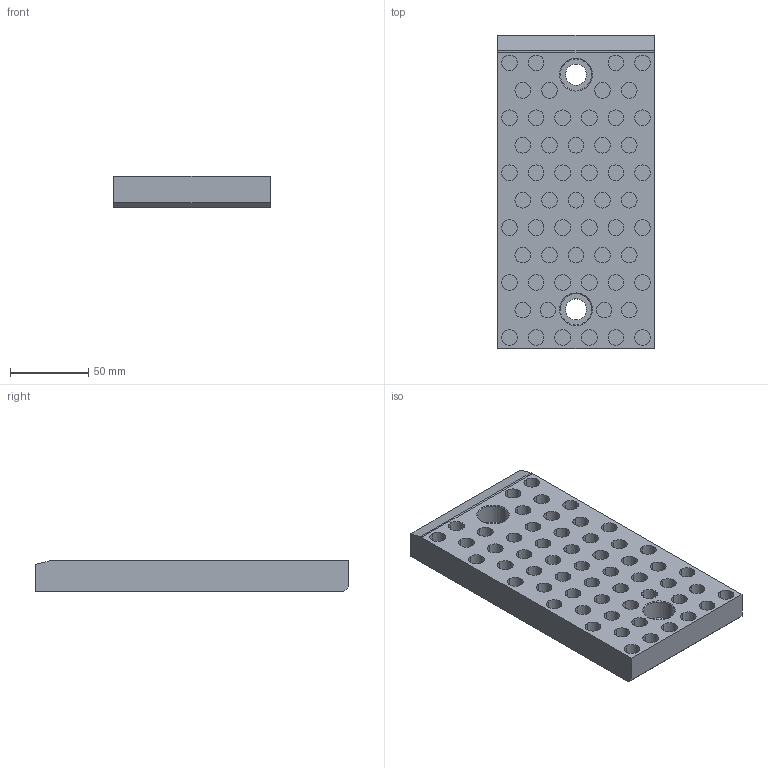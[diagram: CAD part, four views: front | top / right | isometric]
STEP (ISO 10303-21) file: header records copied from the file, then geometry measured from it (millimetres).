
FILE_DESCRIPTION (( 'STEP AP214' ), '1' );
FILE_NAME ('SW224-01-100x200.STEP', '2020-10-14T13:47:41', ( 'August' ), ( '' ), 'SwSTEP 2.0', 'SolidWorks 2018', '' );
FILE_SCHEMA (( 'AUTOMOTIVE_DESIGN' ));
Length unit declared in the file: millimetre
Products named in the file (1): SW224-01-100x200
Bounding box: 100 x 200 x 20 mm (x, y, z)
Volume: 346386.4 mm3; surface area: 69827.3 mm2
Topology: 1 solids, 1 shells, 194 faces, 395 edges, 262 vertices
Faces by surface type: cylinder 123, plane 67, cone 4
Entity records: 5512 total; most frequent: DIRECTION 1035, CARTESIAN_POINT 852, ORIENTED_EDGE 790, AXIS2_PLACEMENT_3D 445, EDGE_CURVE 395, VERTEX_POINT 262, EDGE_LOOP 257, CIRCLE 250
